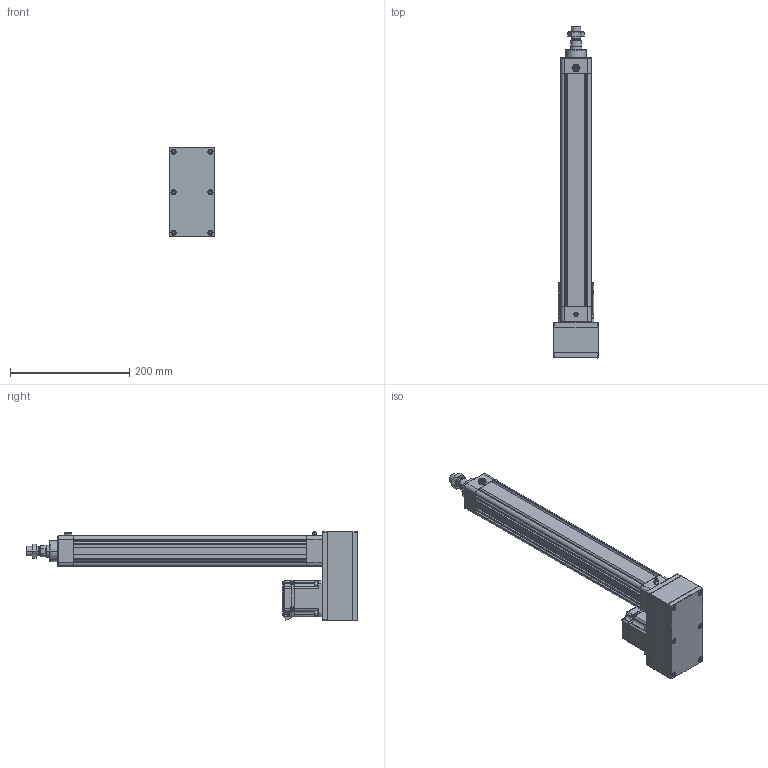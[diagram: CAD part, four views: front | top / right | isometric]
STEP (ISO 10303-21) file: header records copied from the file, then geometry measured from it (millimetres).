
FILE_DESCRIPTION((''),'2;1');
FILE_NAME('ASM0001_ASM','2020-04-07T',('ASUS20200'),(''),'CREO PARAMETRIC BY PTC INC, 2014190','CREO PARAMETRIC BY PTC INC, 2014190','');
FILE_SCHEMA(('CONFIG_CONTROL_DESIGN'));
Length unit declared in the file: millimetre
Products named in the file (23): HE40-D-P-001-X1; HE40-D-P-002-X1; HE40-D-P-003-X1; 6200ZZ; SLM-01; YZ-M6X1; JDB202820; HE40-P-010-X1-200W; _MHMF022L1A2; MHMF022L1A2M2_1_ASM; MHMF022L1A2M2_ASM; JX5X5X20; TD-5; M5X20; LM-M6X1; HE40-P-012-X2; HE40-P-014-X1; M4X65; HE40-D-P-005-X1; HE40-D-P-004-X1; HE40-D-P-008-X1; LGLM-M6-22; ASM0001_ASM
Assembly tree (39 placements, depth 4):
  ASM0001_ASM
    HE40-D-P-001-X1
    HE40-D-P-002-X1
    HE40-D-P-003-X1
    6200ZZ
    SLM-01
    YZ-M6X1
    JDB202820
    HE40-P-010-X1-200W
    MHMF022L1A2M2_ASM
      MHMF022L1A2M2_1_ASM
        _MHMF022L1A2
    JX5X5X20
    TD-5  x4
    M5X20  x4
    LM-M6X1  x4
    HE40-P-012-X2
    HE40-P-014-X1
    M4X65  x6
    HE40-D-P-005-X1
    HE40-D-P-004-X1
    HE40-D-P-008-X1
    LGLM-M6-22  x4
Bounding box: 75 x 557.5 x 150.5 mm (x, y, z)
Volume: 1069892.9 mm3; surface area: 392536.9 mm2
Topology: 37 solids, 60 shells, 1851 faces, 4343 edges, 2662 vertices
Faces by surface type: plane 691, cylinder 531, cone 493, torus 110, sphere 22, bspline 4
Entity records: 44678 total; most frequent: CARTESIAN_POINT 8466, DIRECTION 8083, ORIENTED_EDGE 6978, EDGE_CURVE 3529, AXIS2_PLACEMENT_3D 3120, VERTEX_POINT 2181, VECTOR 1843, LINE 1843
